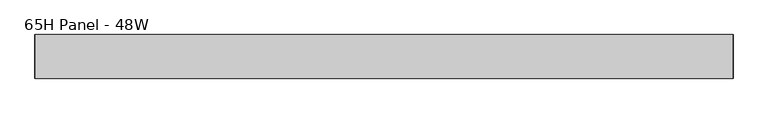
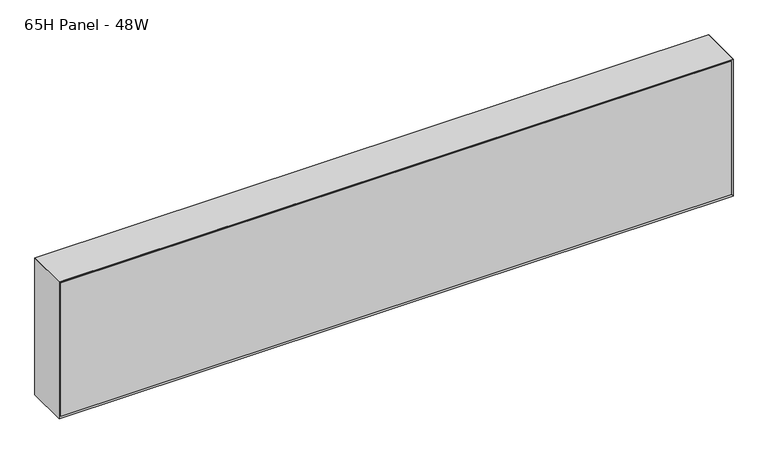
"""IFC4 building model written with IfcOpenShell, lengths in millimetres: furniture geometry, Steelcase - Montage - Frame - 10H - Enhanced Standard - Single Stack-On : 65H Panel - 48W."""

from ifc_helpers import new_model, si_unit, frame, origin, place, context, project, spatial, polyline, outline, extrude, faceted_brep, source, transform, mapped, element, save


def furniture_65h_panel_48w_835be630(model_context):
    return source(origin(), model_context, "Body", "SolidModel", [
        faceted_brep([(1209.6750027, 31.7500194, 1912.9502415), (9.5250028, 31.7500194, 1912.9502415), (9.5250028, 31.7500194, 1670.05), (1209.6750027, 31.7500194, 1670.05), (1216.025, 38.1000194, 1919.3002415), (1216.025, 38.1000194, 1663.7), (3.175, 38.1000194, 1663.7), (3.175, 38.1000194, 1919.3002415)], [[[0, 1, 2, 3]], [[4, 5, 6, 7]], [[4, 0, 3, 5]], [[5, 3, 2, 6]], [[6, 2, 1, 7]], [[7, 1, 0, 4]]]),
        faceted_brep([(1209.6750027, -31.7500194, 1912.9502415), (1209.6750027, -31.7500194, 1670.05), (9.5250028, -31.7500194, 1670.05), (9.5250028, -31.7500194, 1912.9502415), (1216.025, -38.1000194, 1919.3002415), (3.175, -38.1000194, 1919.3002415), (3.175, -38.1000194, 1663.7), (1216.025, -38.1000194, 1663.7)], [[[0, 1, 2, 3]], [[4, 5, 6, 7]], [[4, 7, 1, 0]], [[7, 6, 2, 1]], [[6, 5, 3, 2]], [[5, 4, 0, 3]]]),
        faceted_brep([(1219.2, -38.1000015, 1660.525), (1219.2, 38.1000015, 1660.525), (1219.2, 38.1000015, 1922.4752415), (1219.2, -38.1000106, 1922.4752414), (0.0, 38.1000015, 1660.525), (0.0, -38.1000015, 1660.525), (0.0, -38.1000015, 1922.4752415), (0.0, 38.1000015, 1922.4752415), (6.3500484, 31.749953, 1666.8750484), (1212.8499879, 31.749953, 1666.8750484), (6.35, -31.749953, 1666.8750484), (1212.8499879, -31.749953, 1666.8750484), (6.3500169, 31.7499846, 1916.1252245), (6.3500012, -31.7500003, 1916.125193), (1212.8499879, -31.7499973, 1916.125193), (1212.8499879, 31.7499885, 1916.1252293)], [[[0, 1, 2, 3]], [[4, 5, 6, 7]], [[1, 0, 5, 4]], [[1, 4, 8, 9]], [[9, 8, 10, 11]], [[5, 0, 11, 10]], [[4, 7, 12, 8]], [[6, 5, 10, 13]], [[10, 8, 12, 13]], [[9, 11, 14, 15]], [[0, 3, 14, 11]], [[2, 1, 9, 15]], [[3, 2, 15, 14]], [[7, 6, 13, 12]]]),
        faceted_brep([(1219.2, -38.1000015, 1922.4752415), (0.0, -38.1000015, 1922.4752415), (6.3500484, -31.749953, 1916.125193), (1212.8499516, -31.749953, 1916.125193), (6.3500484, 31.749953, 1916.125193), (1212.8499516, 31.749953, 1916.125193), (0.0, 38.1000015, 1922.4752415), (1219.2, 38.1000015, 1922.4752415)], [[[0, 1, 2, 3]], [[3, 2, 4, 5]], [[6, 7, 5, 4]], [[1, 0, 7, 6]], [[2, 1, 6, 4]], [[0, 3, 5, 7]]]),
        extrude(outline(polyline([(1212.8499879, 31.7500016), (1212.8499879, -31.7499985), (6.35, -31.7499985), (6.35, 31.7500016), (1212.8499879, 31.7500016)])), frame((0.0, 0.0, 1666.8702145), z_axis=(0.0, 0.0, 1.0), x_axis=(1.0, 0.0, 0.0)), (0.0, 0.0, 1.0), 249.2549785),
    ])


if __name__ == "__main__":
    model = new_model("IFC4")
    model_context = context("Model", 3, world=origin())
    ifc_project = project(units=[si_unit("LENGTHUNIT", "METRE", prefix="MILLI")], contexts=[model_context])
    site = spatial("IfcSite", under=ifc_project)
    building = spatial("IfcBuilding", under=site)
    placement = place(None, origin())
    furniture_65h_panel_48w_shape = furniture_65h_panel_48w_835be630(model_context)
    element("IfcFurniture", 1, ObjectType="Steelcase - Montage - Frame - 10H - Enhanced Standard - Single Stack-On : 65H Panel - 48W", at=placement, inside=building, context=model_context, shape_type="MappedRepresentation", body=[
        mapped(furniture_65h_panel_48w_shape, transform((0.0, 0.0, 0.0), x_axis=(1.0, 0.0, 0.0), y_axis=(0.0, 1.0, 0.0), z_axis=(0.0, 0.0, 1.0))),
    ])
    save(model, "model.ifc")
